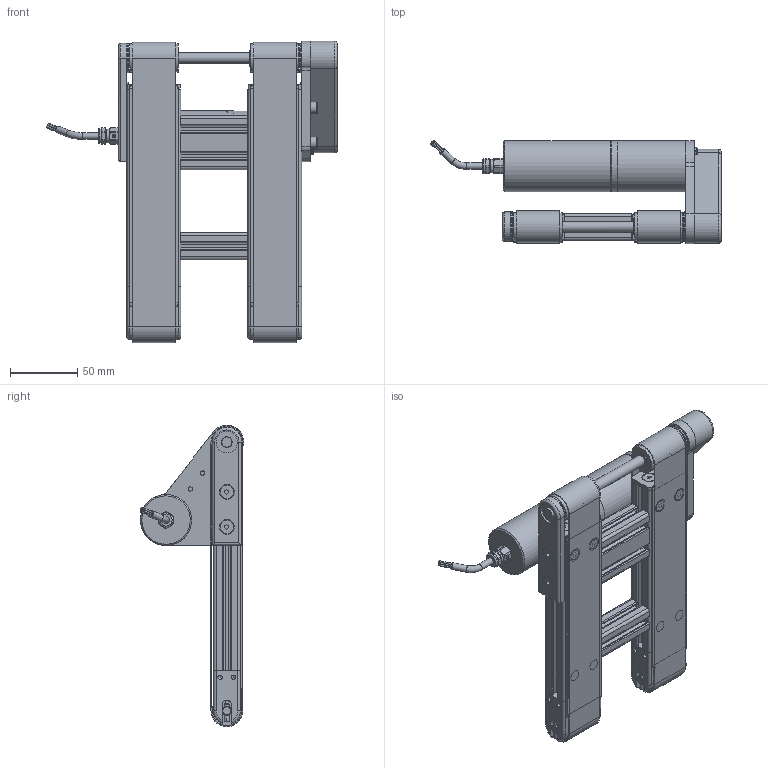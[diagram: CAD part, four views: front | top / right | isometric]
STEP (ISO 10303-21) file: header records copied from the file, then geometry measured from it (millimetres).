
FILE_DESCRIPTION(/* description */ (''),/* implementation_level */ '2;1');
FILE_NAME(/* name */ 'G:\DATEN\CAD\Förderband\Marketing\3D-Modelle (Standard)\BK-20-40\BK-20-40-x-2-K.stp',/* time_stamp */ '2019-05-13T08:05:00+02:00',/* author */ ('melanie.ochs'),/* organization */ (''),/* preprocessor_version */ 'ST-DEVELOPER v17',/* originating_system */ 'Autodesk Inventor 2019',/* authorisation */ '');
FILE_SCHEMA (('CONFIG_CONTROL_DESIGN'));
Length unit declared in the file: millimetre
Products named in the file (1): BK-20-40-x-2-K
Bounding box: 216.18 x 76.87 x 224.31 mm (x, y, z)
Volume: 475462.9 mm3; surface area: 318240.2 mm2
Topology: 63 solids, 64 shells, 1525 faces, 4093 edges, 2769 vertices
Faces by surface type: plane 755, cylinder 521, cone 136, bspline 63, torus 50
Full cylindrical faces by diameter (mm): 1 x6, 2 x2, 2.459 x4, 2.5 x10, 2.729 x4, 3 x4, 3.1 x2, 3.242 x10, 3.5 x4, 4 x6, 4.134 x2, 4.3 x7, 4.4 x2, 4.917 x1, 5 x26, 5.2 x2, 5.4 x2, 5.5 x4, 6 x4, 6.773 x1, 6.917 x1, 7 x6, 8 x4, 8.5 x6, 8.773 x1, 9 x4, 10 x13, 11 x1, 16 x2, 19 x4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
Entity records: 50972 total; most frequent: CARTESIAN_POINT 10396, DIRECTION 8203, ORIENTED_EDGE 8128, EDGE_CURVE 4064, AXIS2_PLACEMENT_3D 2992, VERTEX_POINT 2769, LINE 2219, VECTOR 2219
